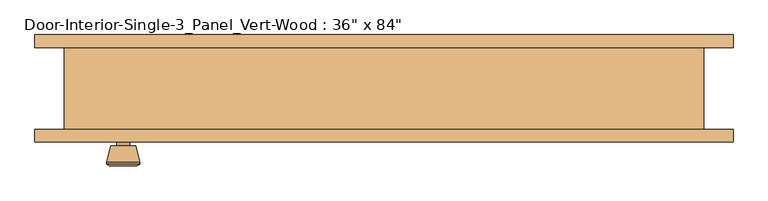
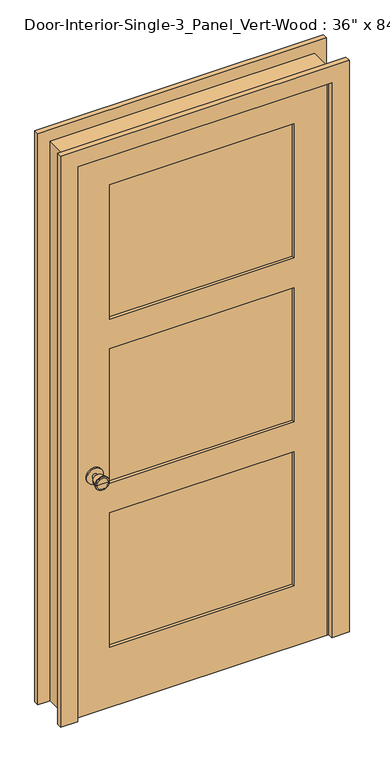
"""IFC4 building model written with IfcOpenShell, lengths in millimetres: door geometry."""

import ifcopenshell
import ifcopenshell.guid

model = None  # the IFC model being written
_history = None  # IfcOwnerHistory: only IFC2X3 demands one
_inside = {}  # id of a spatial element -> (the spatial element, [elements in it])
_under = {}  # id of a project, library or spatial element -> (it, [spatial elements below it])
_declared = {}  # id of a project -> (the project, [libraries it declares])
_typed = {}  # id of a type object -> (the type object, [elements of that type])
_made_of = {}  # id of a material, layer set ... -> (it, [elements and type objects made of it])


def new_model(schema):
    """Start an empty IFC model of exactly this schema.

    Asked for "IFC4X3", IfcOpenShell would pick the latest addendum, in which some entities
    have other attributes; the version numbers below select the first issue.
    IFC2X3 requires an IfcOwnerHistory on every rooted entity: one is made here for all.
    """
    global model, _history
    if schema == "IFC4X3":
        model = ifcopenshell.file(schema_version=(4, 3, 0, 0))
    else:
        model = ifcopenshell.file(schema=schema)
    _inside.clear()
    _under.clear()
    _declared.clear()
    _typed.clear()
    _made_of.clear()
    _history = None
    if model.schema == "IFC2X3":
        org = make("IfcOrganization", Name="unknown")
        user = make(
            "IfcPersonAndOrganization",
            ThePerson=make("IfcPerson", FamilyName="unknown"),
            TheOrganization=org,
        )
        app = make(
            "IfcApplication",
            ApplicationDeveloper=org,
            Version="unknown",
            ApplicationFullName="unknown",
            ApplicationIdentifier="unknown",
        )
        _history = make(
            "IfcOwnerHistory",
            OwningUser=user,
            OwningApplication=app,
            ChangeAction="ADDED",
            CreationDate=0,
        )
    return model


def make(cls, **values):
    """One entity of the class cls with the attributes given. An attribute that is None is left unset."""
    return model.create_entity(
        cls, **{name: value for name, value in values.items() if value is not None}
    )


def rooted(cls, **values):
    """An entity with a GlobalId (a new one), such as an element, a storey or a relation."""
    return make(cls, GlobalId=ifcopenshell.guid.new(), OwnerHistory=_history, **values)


def si_unit(unit_type, name, prefix=None):
    """IfcSIUnit, for example si_unit("LENGTHUNIT", "METRE", prefix="MILLI")."""
    return make("IfcSIUnit", UnitType=unit_type, Prefix=prefix, Name=name)


def assignment(units):
    """IfcUnitAssignment: the units of a project."""
    return None if units is None else make("IfcUnitAssignment", Units=units)


def point(xyz):
    """IfcCartesianPoint."""
    return None if xyz is None else make("IfcCartesianPoint", Coordinates=xyz)


def direction(xyz):
    """IfcDirection."""
    return None if xyz is None else make("IfcDirection", DirectionRatios=xyz)


def frame(location, z_axis=None, x_axis=None):
    """IfcAxis2Placement3D, a coordinate frame: its origin and axes. An axis left out is left unset."""
    return make(
        "IfcAxis2Placement3D",
        Location=point(location),
        Axis=direction(z_axis),
        RefDirection=direction(x_axis),
    )


def frame_2d(location, x_axis=None):
    """IfcAxis2Placement2D, a coordinate frame in the plane: its origin and x axis."""
    return make(
        "IfcAxis2Placement2D", Location=point(location), RefDirection=direction(x_axis)
    )


def origin():
    """The frame at (0, 0, 0) with its axes left unset."""
    return frame((0.0, 0.0, 0.0))


def place(relative_to, where):
    """IfcLocalPlacement: puts the frame where relative to a parent placement (None: the world)."""
    return make(
        "IfcLocalPlacement", PlacementRelTo=relative_to, RelativePlacement=where
    )


def context(
    kind, dimensions, precision=None, world=None, true_north=None, identifier=None
):
    """IfcGeometricRepresentationContext, for example the 3D "Model" context."""
    return make(
        "IfcGeometricRepresentationContext",
        ContextIdentifier=identifier,
        ContextType=kind,
        CoordinateSpaceDimension=dimensions,
        Precision=precision,
        WorldCoordinateSystem=world,
        TrueNorth=true_north,
    )


def project(units=None, contexts=None):
    """IfcProject with its units and contexts."""
    return rooted(
        "IfcProject",
        Name="project",
        RepresentationContexts=contexts,
        UnitsInContext=assignment(units),
    )


def spatial(cls, under=None, at=None, **own):
    """A site, building, storey or space (cls), placed at a placement, below another one or the project."""
    s = rooted(cls, ObjectPlacement=at, **own)
    if under is not None:
        _under.setdefault(under.id(), (under, []))[1].append(s)
    return s


def polyline(points):
    """IfcPolyline through the points."""
    return make("IfcPolyline", Points=[point(p) for p in points])


def circle_curve(where, radius):
    """IfcCircle in the frame where."""
    return make("IfcCircle", Position=where, Radius=radius)


def trimmed(basis, trim1, trim2, sense, master):
    """IfcTrimmedCurve: the piece of a basis curve between two trims."""
    return make(
        "IfcTrimmedCurve",
        BasisCurve=basis,
        Trim1=trim1,
        Trim2=trim2,
        SenseAgreement=sense,
        MasterRepresentation=master,
    )


def segment(curve, same_sense, transition):
    """IfcCompositeCurveSegment."""
    return make(
        "IfcCompositeCurveSegment",
        Transition=transition,
        SameSense=same_sense,
        ParentCurve=curve,
    )


def composite_curve(segments, self_intersect=None):
    """IfcCompositeCurve: segments joined end to end."""
    return make("IfcCompositeCurve", Segments=segments, SelfIntersect=self_intersect)


def outline(outer, holes=None, kind="AREA"):
    """IfcArbitraryClosedProfileDef: a profile drawn as a closed curve; with holes, ...WithVoids."""
    if holes is None:
        return make("IfcArbitraryClosedProfileDef", ProfileType=kind, OuterCurve=outer)
    return make(
        "IfcArbitraryProfileDefWithVoids",
        ProfileType=kind,
        OuterCurve=outer,
        InnerCurves=holes,
    )


def extrude(swept, where, along, depth):
    """IfcExtrudedAreaSolid: the profile swept, set in the frame where, extruded along a direction by depth."""
    return make(
        "IfcExtrudedAreaSolid",
        SweptArea=swept,
        Position=where,
        ExtrudedDirection=direction(along),
        Depth=depth,
    )


def faces_of(points, faces, orient=None, outer=None):
    """IfcFace entities. A face is a list of loops; a loop is a list of indices into points, from 0.

    orient and outer hold one flag for each loop. By default every Orientation is true, the
    first loop of a face is its IfcFaceOuterBound and the others are IfcFaceBound.
    """
    made = []
    for i, loops in enumerate(faces):
        bounds = []
        for j, loop in enumerate(loops):
            is_outer = j == 0 if outer is None else outer[i][j]
            bounds.append(
                make(
                    "IfcFaceOuterBound" if is_outer else "IfcFaceBound",
                    Bound=make("IfcPolyLoop", Polygon=[points[k] for k in loop]),
                    Orientation=True if orient is None else orient[i][j],
                )
            )
        made.append(make("IfcFace", Bounds=bounds))
    return made


def faceted_brep(points, faces, orient=None, outer=None, voids=None):
    """IfcFacetedBrep: a solid bounded by flat faces; with voids (closed shells), ...WithVoids."""
    shared = [point(p) for p in points]
    hull = make("IfcClosedShell", CfsFaces=faces_of(shared, faces, orient, outer))
    if voids is None:
        return make("IfcFacetedBrep", Outer=hull)
    return make(
        "IfcFacetedBrepWithVoids",
        Outer=hull,
        Voids=[
            make(cls, CfsFaces=faces_of(shared, fs, o, b)) for cls, fs, o, b in voids
        ],
    )


def shape(context_of_items, identifier, shape_type, items):
    """IfcShapeRepresentation: the items that make up one representation, for example the "Body"."""
    return make(
        "IfcShapeRepresentation",
        ContextOfItems=context_of_items,
        RepresentationIdentifier=identifier,
        RepresentationType=shape_type,
        Items=items,
    )


def source(mapping_origin, context_of_items, identifier, shape_type, items):
    """IfcRepresentationMap: a shape defined once, which mapped items show again and again."""
    return make(
        "IfcRepresentationMap",
        MappingOrigin=mapping_origin,
        MappedRepresentation=shape(context_of_items, identifier, shape_type, items),
    )


def transform(
    local_origin,
    x_axis=None,
    y_axis=None,
    z_axis=None,
    scale=None,
    scale2=None,
    scale3=None,
    uniform=True,
):
    """IfcCartesianTransformationOperator3D, or its non-uniform kind. x_axis, y_axis, z_axis: its Axis1, 2, 3."""
    if uniform:
        return make(
            "IfcCartesianTransformationOperator3D",
            Axis1=direction(x_axis),
            Axis2=direction(y_axis),
            LocalOrigin=point(local_origin),
            Scale=scale,
            Axis3=direction(z_axis),
        )
    return make(
        "IfcCartesianTransformationOperator3DnonUniform",
        Axis1=direction(x_axis),
        Axis2=direction(y_axis),
        LocalOrigin=point(local_origin),
        Scale=scale,
        Axis3=direction(z_axis),
        Scale2=scale2,
        Scale3=scale3,
    )


def mapped(mapping_source, mapping_target):
    """IfcMappedItem: shows the shape of a source again, moved by a transform."""
    return make(
        "IfcMappedItem", MappingSource=mapping_source, MappingTarget=mapping_target
    )


def made_of(thing, what):
    """Note that an element or type object is made of a material, layer set ...; save() writes the relation."""
    if what is not None:
        _made_of.setdefault(what.id(), (what, []))[1].append(thing)
    return thing


def element(
    cls,
    number,
    at=None,
    inside=None,
    cuts=None,
    type_object=None,
    material=None,
    context=None,
    identifier="Body",
    shape_type=None,
    held_by="IfcProductDefinitionShape",
    body=None,
    shapes=None,
    **own,
):
    """One element of the class cls, such as IfcWall. Its Tag is "e" and its number.

    at: its placement. inside: the storey or other place that contains it. cuts: it is an
    opening in that element (IfcRelVoidsElement). A single representation is given by context,
    identifier, shape_type and body (its items); several are given by shapes. held_by: the class
    of the entity that holds the representations. save() writes the other relations.
    """
    e = rooted(cls, Tag="e%d" % number, ObjectPlacement=at, **own)
    if body is not None:
        shapes = [shape(context, identifier, shape_type, body)]
    if shapes is not None:
        e.Representation = make(held_by, Representations=shapes)
    if inside is not None:
        _inside.setdefault(inside.id(), (inside, []))[1].append(e)
    if cuts is not None:
        rooted(
            "IfcRelVoidsElement", RelatingBuildingElement=cuts, RelatedOpeningElement=e
        )
    if type_object is not None:
        _typed.setdefault(type_object.id(), (type_object, []))[1].append(e)
    return made_of(e, material)


def aggregate(whole, parts):
    """IfcRelAggregates: a whole, such as a stair, and the parts it consists of."""
    return rooted("IfcRelAggregates", RelatingObject=whole, RelatedObjects=parts)


def save(model, path):
    """Write the relations noted so far, then the file.

    IfcRelAggregates (storeys below a building ...), IfcRelContainedInSpatialStructure (elements
    in a storey), IfcRelDefinesByType, IfcRelAssociatesMaterial and IfcRelDeclares: one each for
    every whole, place, type object, material and project.
    """
    for whole, parts in _under.values():
        aggregate(whole, parts)
    for where, things in _inside.values():
        rooted(
            "IfcRelContainedInSpatialStructure",
            RelatedElements=things,
            RelatingStructure=where,
        )
    for kind, things in _typed.values():
        rooted("IfcRelDefinesByType", RelatedObjects=things, RelatingType=kind)
    for what, things in _made_of.values():
        rooted("IfcRelAssociatesMaterial", RelatedObjects=things, RelatingMaterial=what)
    for by, libraries in _declared.values():
        rooted("IfcRelDeclares", RelatingContext=by, RelatedDefinitions=libraries)
    model.write(path)


def plane_surface(at):
    """IfcPlane: the flat surface through the origin of the frame at, square to its z axis."""
    return make("IfcPlane", Position=at)


def cylinder_surface(at, radius):
    """IfcCylindricalSurface: all points at the distance radius from the z axis of the frame at."""
    return make("IfcCylindricalSurface", Position=at, Radius=radius)


def revolved_surface(curve, axis_point, axis_direction):
    """IfcSurfaceOfRevolution: the curve turned about the line through axis_point along axis_direction."""
    return make(
        "IfcSurfaceOfRevolution",
        SweptCurve=make("IfcArbitraryOpenProfileDef", ProfileType="CURVE", Curve=curve),
        AxisPosition=make("IfcAxis1Placement", Location=point(axis_point), Axis=direction(axis_direction)),
    )


def advanced_brep(points, edges, surfaces, faces):
    """IfcAdvancedBrep: a solid bounded by faces that lie on surfaces and meet in shared edges.

    An edge is (start, end): straight between two places in points (the first is 0);
    or (start, end, curve); or (start, end, curve, False) where it runs against its curve.
    A face is (place in surfaces, loops), or (place, loops, False) where it looks against
    its surface's normal. A loop lists edges by number (the first is 1), with a minus sign
    where the edge is run from its end to its start. The first loop is the outer one.
    """
    corners = [point(p) for p in points]
    vertices = [make("IfcVertexPoint", VertexGeometry=c) for c in corners]
    made = []
    for start, end, *more in edges:
        made.append(
            make(
                "IfcEdgeCurve",
                EdgeStart=vertices[start],
                EdgeEnd=vertices[end],
                EdgeGeometry=more[0] if more else make("IfcPolyline", Points=[corners[start], corners[end]]),
                SameSense=more[1] if len(more) > 1 else True,
            )
        )
    hull = []
    for where, loops, *sense in faces:
        bounds = []
        for j, loop in enumerate(loops):
            ring = [make("IfcOrientedEdge", EdgeElement=made[abs(k) - 1], Orientation=k > 0) for k in loop]
            bounds.append(
                make(
                    "IfcFaceOuterBound" if j == 0 else "IfcFaceBound",
                    Bound=make("IfcEdgeLoop", EdgeList=ring),
                    Orientation=True,
                )
            )
        hull.append(make("IfcAdvancedFace", Bounds=bounds, FaceSurface=surfaces[where], SameSense=sense[0] if sense else True))
    return make("IfcAdvancedBrep", Outer=make("IfcClosedShell", CfsFaces=hull))


def door_30cbd227(model_context):
    return source(origin(), model_context, "Body", "SolidModel", [
        advanced_brep(
        [(-393.7, -17.8125, 914.4), (-403.7, -17.8125, 914.4), (-383.7, -17.8125, 914.4), (-373.2241324, 31.1875, 914.4), (-414.1758676, 31.1875, 914.4), (-393.7, 31.1875, 914.4), (-368.7, 29.3596319, 914.4), (-418.7, 29.3596319, 914.4), (-368.7, 25.8959537, 914.4), (-418.7, 25.8959537, 914.4), (-375.063764, 1.1875, 914.4), (-412.336236, 1.1875, 914.4), (-383.7, 1.1875, 914.4), (-403.7, 1.1875, 914.4)],
        [
            (0, 1),
            (1, 2, circle_curve(frame((-393.7, -17.8125, 914.4), z_axis=(0.0, -1.0, 0.0), x_axis=(-1.0, 0.0, 0.0)), 10.0)),
            (2, 0),
            (2, 1, circle_curve(frame((-393.7, -17.8125, 914.4), z_axis=(0.0, -1.0, 0.0), x_axis=(-1.0, 0.0, 0.0)), 10.0)),
            (3, 4, circle_curve(frame((-393.7, 31.1875, 914.4), z_axis=(0.0, 1.0, 0.0), x_axis=(-1.0, 0.0, 0.0)), 20.4758676)),
            (4, 5),
            (5, 3),
            (4, 3, circle_curve(frame((-393.7, 31.1875, 914.4), z_axis=(0.0, 1.0, 0.0), x_axis=(-1.0, 0.0, 0.0)), 20.4758676)),
            (6, 7, circle_curve(frame((-393.7, 29.3596319, 914.4), z_axis=(0.0, 1.0, 0.0), x_axis=(-1.0, 0.0, 0.0)), 25.0)),
            (7, 4),
            (3, 6),
            (7, 6, circle_curve(frame((-393.7, 29.3596319, 914.4), z_axis=(0.0, 1.0, 0.0), x_axis=(-1.0, 0.0, 0.0)), 25.0)),
            (8, 9, circle_curve(frame((-393.7, 25.8959537, 914.4), z_axis=(0.0, 1.0, 0.0), x_axis=(-1.0, 0.0, 0.0)), 25.0)),
            (9, 7),
            (6, 8),
            (9, 8, circle_curve(frame((-393.7, 25.8959537, 914.4), z_axis=(0.0, 1.0, 0.0), x_axis=(-1.0, 0.0, 0.0)), 25.0)),
            (10, 11, circle_curve(frame((-393.7, 1.1875, 914.4), z_axis=(0.0, 1.0, 0.0), x_axis=(-1.0, 0.0, 0.0)), 18.636236)),
            (11, 9),
            (8, 10),
            (11, 10, circle_curve(frame((-393.7, 1.1875, 914.4), z_axis=(0.0, 1.0, 0.0), x_axis=(-1.0, 0.0, 0.0)), 18.636236)),
            (12, 13, circle_curve(frame((-393.7, 1.1875, 914.4), z_axis=(0.0, 1.0, 0.0), x_axis=(-1.0, 0.0, 0.0)), 10.0)),
            (13, 11),
            (10, 12),
            (13, 12, circle_curve(frame((-393.7, 1.1875, 914.4), z_axis=(0.0, 1.0, 0.0), x_axis=(-1.0, 0.0, 0.0)), 10.0)),
            (1, 13),
            (12, 2),
        ],
        [
            plane_surface(frame((-393.7, -17.8125, 914.4), z_axis=(0.0, -1.0, 0.0), x_axis=(-1.0, 0.0, 0.0))),
            plane_surface(frame((-393.7, 31.1875, 914.4), z_axis=(0.0, 1.0, 0.0), x_axis=(-1.0, 0.0, 0.0))),
            revolved_surface(polyline([(-414.1758676, 31.1875, 914.4), (-418.7, 29.3596319, 914.4)]), (-393.7, -17.8125, 914.4), (0.0, -1.0, 0.0)),
            cylinder_surface(frame((-393.7, -17.8125, 914.4), z_axis=(0.0, -1.0, 0.0), x_axis=(-1.0, 0.0, 0.0)), 25.0),
            revolved_surface(polyline([(-418.7, 25.8959537, 914.4), (-412.336236, 1.1875, 914.4)]), (-393.7, -17.8125, 914.4), (0.0, -1.0, 0.0)),
            plane_surface(frame((-393.7, 1.1875, 914.4), z_axis=(0.0, -1.0, 0.0), x_axis=(-1.0, 0.0, 0.0))),
            cylinder_surface(frame((-393.7, -17.8125, 914.4), z_axis=(0.0, -1.0, 0.0), x_axis=(-1.0, 0.0, 0.0)), 10.0),
        ],
        [
            (0, [[1, 2, 3]]),
            (0, [[-3, 4, -1]]),
            (1, [[5, 6, 7]]),
            (1, [[8, -7, -6]]),
            (2, [[9, 10, -5, 11]]),
            (2, [[12, -11, -8, -10]]),
            (3, [[13, 14, -9, 15]]),
            (3, [[16, -15, -12, -14]]),
            (4, [[17, 18, -13, 19]]),
            (4, [[20, -19, -16, -18]]),
            (5, [[21, 22, -17, 23]]),
            (5, [[24, -23, -20, -22]]),
            (6, [[-2, 25, -21, 26]]),
            (6, [[-4, -26, -24, -25]]),
        ],
    ),
        extrude(outline(composite_curve([segment(trimmed(circle_curve(frame_2d((914.4, -393.7)), 30.0), [point((914.4, -423.7))], [point((914.4, -363.7))], False, "CARTESIAN"), True, "CONTINUOUS"), segment(trimmed(circle_curve(frame_2d((914.4, -393.7)), 30.0), [point((914.4, -363.7))], [point((914.4, -423.7))], False, "CARTESIAN"), True, "CONTINUOUS")], self_intersect=False)), frame((0.0, -23.8125, 0.0), z_axis=(0.0, 1.0, 0.0), x_axis=(0.0, 0.0, 1.0)), (0.0, 0.0, 1.0), 6.0),
        advanced_brep(
        [(-393.7, -64.7375, 914.4), (-383.7, -64.7375, 914.4), (-403.7, -64.7375, 914.4), (-373.2241324, -113.7375, 914.4), (-393.7, -113.7375, 914.4), (-414.1758676, -113.7375, 914.4), (-368.7, -111.9096319, 914.4), (-418.7, -111.9096319, 914.4), (-368.7, -108.4459537, 914.4), (-418.7, -108.4459537, 914.4), (-375.063764, -83.7375, 914.4), (-412.336236, -83.7375, 914.4), (-383.7, -83.7375, 914.4), (-403.7, -83.7375, 914.4)],
        [
            (0, 1),
            (1, 2, circle_curve(frame((-393.7, -64.7375, 914.4), z_axis=(0.0, 1.0, 0.0), x_axis=(-1.0, 0.0, 0.0)), 10.0)),
            (2, 0),
            (2, 1, circle_curve(frame((-393.7, -64.7375, 914.4), z_axis=(0.0, 1.0, 0.0), x_axis=(-1.0, 0.0, 0.0)), 10.0)),
            (3, 4),
            (4, 5),
            (5, 3, circle_curve(frame((-393.7, -113.7375, 914.4), z_axis=(0.0, -1.0, 0.0), x_axis=(-1.0, 0.0, 0.0)), 20.4758676)),
            (3, 5, circle_curve(frame((-393.7, -113.7375, 914.4), z_axis=(0.0, -1.0, 0.0), x_axis=(-1.0, 0.0, 0.0)), 20.4758676)),
            (6, 3),
            (5, 7),
            (7, 6, circle_curve(frame((-393.7, -111.9096319, 914.4), z_axis=(0.0, -1.0, 0.0), x_axis=(-1.0, 0.0, 0.0)), 25.0)),
            (6, 7, circle_curve(frame((-393.7, -111.9096319, 914.4), z_axis=(0.0, -1.0, 0.0), x_axis=(-1.0, 0.0, 0.0)), 25.0)),
            (8, 6),
            (7, 9),
            (9, 8, circle_curve(frame((-393.7, -108.4459537, 914.4), z_axis=(0.0, -1.0, 0.0), x_axis=(-1.0, 0.0, 0.0)), 25.0)),
            (8, 9, circle_curve(frame((-393.7, -108.4459537, 914.4), z_axis=(0.0, -1.0, 0.0), x_axis=(-1.0, 0.0, 0.0)), 25.0)),
            (10, 8),
            (9, 11),
            (11, 10, circle_curve(frame((-393.7, -83.7375, 914.4), z_axis=(0.0, -1.0, 0.0), x_axis=(-1.0, 0.0, 0.0)), 18.636236)),
            (10, 11, circle_curve(frame((-393.7, -83.7375, 914.4), z_axis=(0.0, -1.0, 0.0), x_axis=(-1.0, 0.0, 0.0)), 18.636236)),
            (12, 10),
            (11, 13),
            (13, 12, circle_curve(frame((-393.7, -83.7375, 914.4), z_axis=(0.0, -1.0, 0.0), x_axis=(-1.0, 0.0, 0.0)), 10.0)),
            (12, 13, circle_curve(frame((-393.7, -83.7375, 914.4), z_axis=(0.0, -1.0, 0.0), x_axis=(-1.0, 0.0, 0.0)), 10.0)),
            (1, 12),
            (13, 2),
        ],
        [
            plane_surface(frame((-393.7, -64.7375, 914.4), z_axis=(0.0, 1.0, 0.0), x_axis=(-1.0, 0.0, 0.0))),
            plane_surface(frame((-393.7, -113.7375, 914.4), z_axis=(0.0, -1.0, 0.0), x_axis=(-1.0, 0.0, 0.0))),
            revolved_surface(polyline([(-414.1758676, -113.7375, 914.4), (-418.7, -111.9096319, 914.4)]), (-393.7, -64.7375, 914.4), (0.0, 1.0, 0.0)),
            cylinder_surface(frame((-393.7, -64.7375, 914.4), z_axis=(0.0, 1.0, 0.0), x_axis=(-1.0, 0.0, 0.0)), 25.0),
            revolved_surface(polyline([(-418.7, -108.4459537, 914.4), (-412.336236, -83.7375, 914.4)]), (-393.7, -64.7375, 914.4), (0.0, 1.0, 0.0)),
            plane_surface(frame((-393.7, -83.7375, 914.4), z_axis=(0.0, 1.0, 0.0), x_axis=(-1.0, 0.0, 0.0))),
            cylinder_surface(frame((-393.7, -64.7375, 914.4), z_axis=(0.0, 1.0, 0.0), x_axis=(-1.0, 0.0, 0.0)), 10.0),
        ],
        [
            (0, [[1, 2, 3]]),
            (0, [[-3, 4, -1]]),
            (1, [[5, 6, 7]]),
            (1, [[-6, -5, 8]]),
            (2, [[9, -7, 10, 11]]),
            (2, [[-10, -8, -9, 12]]),
            (3, [[13, -11, 14, 15]]),
            (3, [[-14, -12, -13, 16]]),
            (4, [[17, -15, 18, 19]]),
            (4, [[-18, -16, -17, 20]]),
            (5, [[21, -19, 22, 23]]),
            (5, [[-22, -20, -21, 24]]),
            (6, [[25, -23, 26, -2]]),
            (6, [[-26, -24, -25, -4]]),
        ],
    ),
        extrude(outline(composite_curve([segment(trimmed(circle_curve(frame_2d((914.4, -393.7)), 30.0), [point((914.4, -423.7))], [point((914.4, -363.7))], False, "CARTESIAN"), True, "CONTINUOUS"), segment(trimmed(circle_curve(frame_2d((914.4, -393.7)), 30.0), [point((914.4, -363.7))], [point((914.4, -423.7))], False, "CARTESIAN"), True, "CONTINUOUS")], self_intersect=False)), frame((0.0, -64.7375, 0.0), z_axis=(0.0, 1.0, 0.0), x_axis=(0.0, 0.0, 1.0)), (0.0, 0.0, 1.0), 6.0),
        extrude(outline(polyline([(336.55, -35.4541667), (336.55, -47.0958333), (-336.55, -47.0958333), (-336.55, -35.4541667), (336.55, -35.4541667)])), frame((0.0, 0.0, 1496.4833333), z_axis=(0.0, 0.0, 1.0), x_axis=(1.0, 0.0, 0.0)), (0.0, 0.0, 1.0), 518.0541667),
        extrude(outline(polyline([(336.55, -35.4541667), (336.55, -47.0958333), (-336.55, -47.0958333), (-336.55, -35.4541667), (336.55, -35.4541667)])), frame((0.0, 0.0, 231.775), z_axis=(0.0, 0.0, 1.0), x_axis=(1.0, 0.0, 0.0)), (0.0, 0.0, 1.0), 518.0541667),
        extrude(outline(polyline([(336.55, -35.4541667), (336.55, -47.0958333), (-336.55, -47.0958333), (-336.55, -35.4541667), (336.55, -35.4541667)])), frame((0.0, 0.0, 864.1291667), z_axis=(0.0, 0.0, 1.0), x_axis=(1.0, 0.0, 0.0)), (0.0, 0.0, 1.0), 518.0541667),
        extrude(outline(polyline([(2133.6, -457.2), (0.0, -457.2), (0.0, 457.2), (2133.6, 457.2), (2133.6, -457.2)]), holes=[polyline([(2014.5375, -336.55), (2014.5375, 336.55), (1496.4833333, 336.55), (1496.4833333, -336.55), (2014.5375, -336.55)]), polyline([(749.8291667, -336.55), (749.8291667, 336.55), (231.775, 336.55), (231.775, -336.55), (749.8291667, -336.55)]), polyline([(1382.1833333, -336.55), (1382.1833333, 336.55), (864.1291667, 336.55), (864.1291667, -336.55), (1382.1833333, -336.55)])]), frame((0.0, -58.7375, 0.0), z_axis=(0.0, 1.0, 0.0), x_axis=(0.0, 0.0, 1.0)), (0.0, 0.0, 1.0), 34.925),
        faceted_brep([(482.6, -58.7375, 0.0), (457.2, -58.7375, 0.0), (457.2, -23.8125, 0.0), (444.5, -23.8125, 0.0), (444.5, 11.1125, 0.0), (457.2, 11.1125, 0.0), (457.2, 65.0875, 0.0), (482.6, 65.0875, 0.0), (482.6, 65.0875, 2159.0), (482.6, -58.7375, 2159.0), (457.2, 65.0875, 2133.6), (-457.2, 65.0875, 2133.6), (-457.2, 65.0875, 0.0), (-482.6, 65.0875, 0.0), (-482.6, 65.0875, 2159.0), (457.2, 11.1125, 2133.6), (444.5, 11.1125, 2120.9), (-444.5, 11.1125, 2120.9), (-444.5, 11.1125, 0.0), (-457.2, 11.1125, 0.0), (-457.2, 11.1125, 2133.6), (444.5, -23.8125, 2120.9), (457.2, -23.8125, 2133.6), (-457.2, -23.8125, 2133.6), (-457.2, -23.8125, 0.0), (-444.5, -23.8125, 0.0), (-444.5, -23.8125, 2120.9), (457.2, -58.7375, 2133.6), (-482.6, -58.7375, 2159.0), (-482.6, -58.7375, 0.0), (-457.2, -58.7375, 0.0), (-457.2, -58.7375, 2133.6)], [[[0, 1, 2, 3, 4, 5, 6, 7]], [[7, 8, 9, 0]], [[6, 10, 11, 12, 13, 14, 8, 7]], [[5, 15, 10, 6]], [[4, 16, 17, 18, 19, 20, 15, 5]], [[3, 21, 16, 4]], [[2, 22, 23, 24, 25, 26, 21, 3]], [[1, 27, 22, 2]], [[0, 9, 28, 29, 30, 31, 27, 1]], [[8, 14, 28, 9]], [[15, 20, 11, 10]], [[21, 26, 17, 16]], [[27, 31, 23, 22]], [[29, 13, 12, 19, 18, 25, 24, 30]], [[14, 13, 29, 28]], [[20, 19, 12, 11]], [[26, 25, 18, 17]], [[31, 30, 24, 23]]]),
        extrude(outline(polyline([(0.0, 527.05), (2203.45, 527.05), (2203.45, -527.05), (0.0, -527.05), (0.0, -463.55), (2139.95, -463.55), (2139.95, 463.55), (0.0, 463.55), (0.0, 527.05)])), frame((0.0, 65.0875, 0.0), z_axis=(0.0, 1.0, 0.0), x_axis=(0.0, 0.0, 1.0)), (0.0, 0.0, 1.0), 19.05),
        extrude(outline(polyline([(0.0, 527.05), (2203.45, 527.05), (2203.45, -527.05), (0.0, -527.05), (0.0, -463.55), (2139.95, -463.55), (2139.95, 463.55), (0.0, 463.55), (0.0, 527.05)])), frame((0.0, -77.7875, 0.0), z_axis=(0.0, 1.0, 0.0), x_axis=(0.0, 0.0, 1.0)), (0.0, 0.0, 1.0), 19.05),
    ])


if __name__ == "__main__":
    model = new_model("IFC4")
    model_context = context("Model", 3, world=origin())
    ifc_project = project(units=[si_unit("LENGTHUNIT", "METRE", prefix="MILLI")], contexts=[model_context])
    site = spatial("IfcSite", under=ifc_project)
    building = spatial("IfcBuilding", under=site)
    placement = place(None, origin())
    door_shape = door_30cbd227(model_context)
    element("IfcDoor", 1, ObjectType="Door-Interior-Single-3_Panel_Vert-Wood : 36\" x 84\"", at=placement, inside=building, context=model_context, shape_type="MappedRepresentation", body=[
        mapped(door_shape, transform((0.0, 0.0, 0.0), x_axis=(1.0, 0.0, 0.0), y_axis=(0.0, 1.0, 0.0), z_axis=(0.0, 0.0, 1.0))),
    ])
    save(model, "model.ifc")
